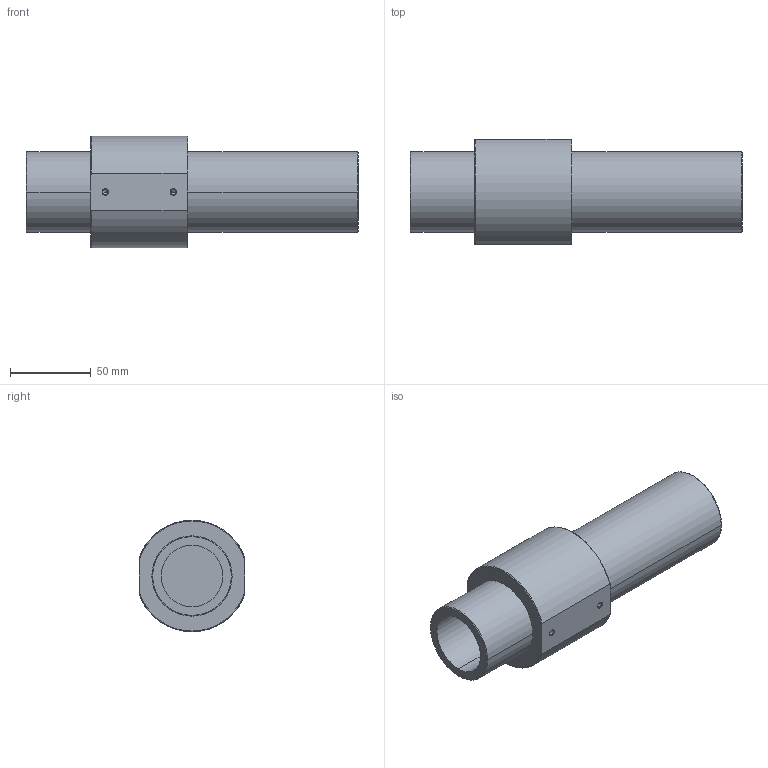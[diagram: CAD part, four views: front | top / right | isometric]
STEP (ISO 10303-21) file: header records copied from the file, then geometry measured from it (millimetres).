
FILE_DESCRIPTION (( 'STEP AP214' ), '1' );
FILE_NAME ('MT156.STEP', '2025-01-09T15:13:51', ( '' ), ( '' ), 'SwSTEP 2.0', 'SolidWorks 2018', '' );
FILE_SCHEMA (( 'AUTOMOTIVE_DESIGN' ));
Length unit declared in the file: millimetre
Products named in the file (1): MT156
Bounding box: 205 x 65 x 69 mm (x, y, z)
Volume: 405765.2 mm3; surface area: 53155.7 mm2
Topology: 1 solids, 1 shells, 57 faces, 130 edges, 80 vertices
Faces by surface type: cylinder 20, cone 14, torus 12, plane 11
Entity records: 1836 total; most frequent: CARTESIAN_POINT 480, DIRECTION 312, ORIENTED_EDGE 252, AXIS2_PLACEMENT_3D 136, EDGE_CURVE 126, VERTEX_POINT 80, CIRCLE 78, EDGE_LOOP 66
